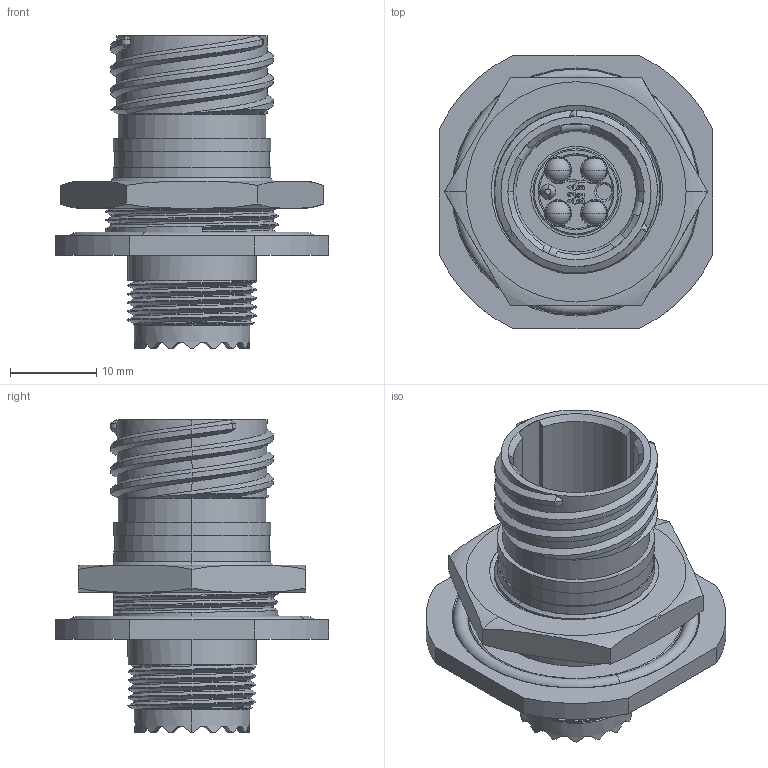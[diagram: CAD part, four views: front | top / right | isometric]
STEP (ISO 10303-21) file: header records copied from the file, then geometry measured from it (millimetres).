
FILE_DESCRIPTION (( 'STEP AP214' ), '1' );
FILE_NAME ('Q38EB-RJX-11XX-X.STEP', '2025-08-26T14:47:33', ( '' ), ( '' ), 'SwSTEP 2.0', 'SolidWorks 2024', '' );
FILE_SCHEMA (( 'AUTOMOTIVE_DESIGN' ));
Length unit declared in the file: millimetre
Products named in the file (1): Q38EB-RJX-11XX-X
Bounding box: 31.8 x 31.8 x 36.32 mm (x, y, z)
Volume: 8161.9 mm3; surface area: 7624.1 mm2
Topology: 2 solids, 2 shells, 486 faces, 1292 edges, 833 vertices
Faces by surface type: plane 201, cylinder 147, bspline 68, torus 31, cone 31, sphere 8
Entity records: 24478 total; most frequent: CARTESIAN_POINT 13350, ORIENTED_EDGE 2566, DIRECTION 2079, EDGE_CURVE 1283, VERTEX_POINT 833, AXIS2_PLACEMENT_3D 777, EDGE_LOOP 528, LINE 525
